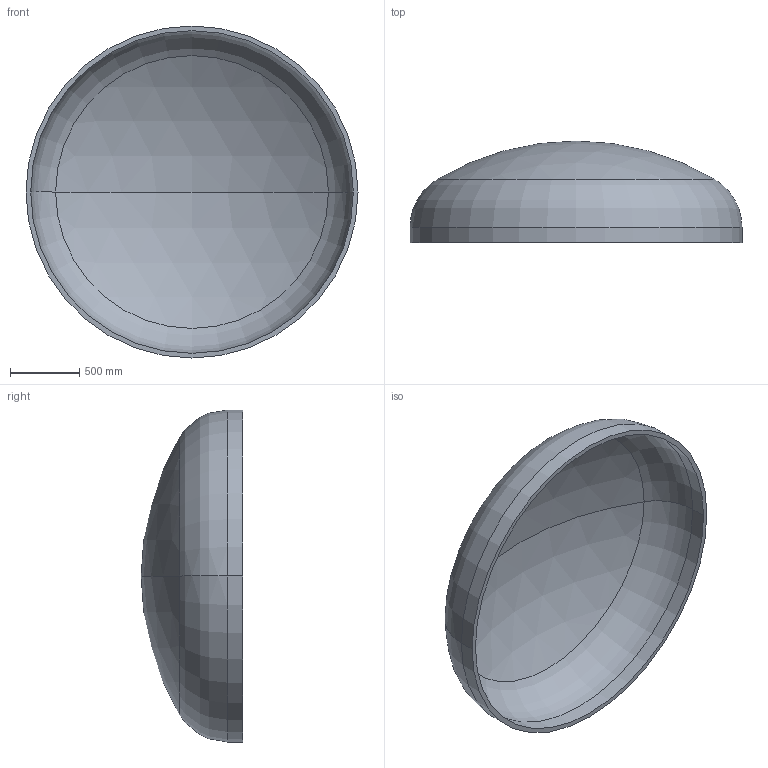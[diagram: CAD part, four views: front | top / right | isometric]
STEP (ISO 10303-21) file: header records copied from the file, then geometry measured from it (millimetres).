
FILE_DESCRIPTION (( 'STEP AP203' ), '1' );
FILE_NAME ('DIN 28013 Korbbogenform_-_Boden DIN 28013 - 2400 x 110 - I - s=34.step', '2016-07-01T15:17:39', ( '' ), ( '' ), 'SwSTEP 2.0', 'SolidWorks 2013', '' );
FILE_SCHEMA (( 'CONFIG_CONTROL_DESIGN' ));
Length unit declared in the file: millimetre
Products named in the file (1): DIN 28013 Korbbogenform_-_Boden DIN 28013 - 2400 x 110 - I - s=34
Bounding box: 2400 x 734.01 x 2400 mm (x, y, z)
Volume: 236922049 mm3; surface area: 14191729.7 mm2
Topology: 1 solids, 1 shells, 13 faces, 24 edges, 14 vertices
Faces by surface type: torus 4, cylinder 4, sphere 4, plane 1
Entity records: 407 total; most frequent: DIRECTION 72, CARTESIAN_POINT 52, ORIENTED_EDGE 48, AXIS2_PLACEMENT_3D 34, EDGE_CURVE 24, CIRCLE 20, VERTEX_POINT 14, EDGE_LOOP 14
